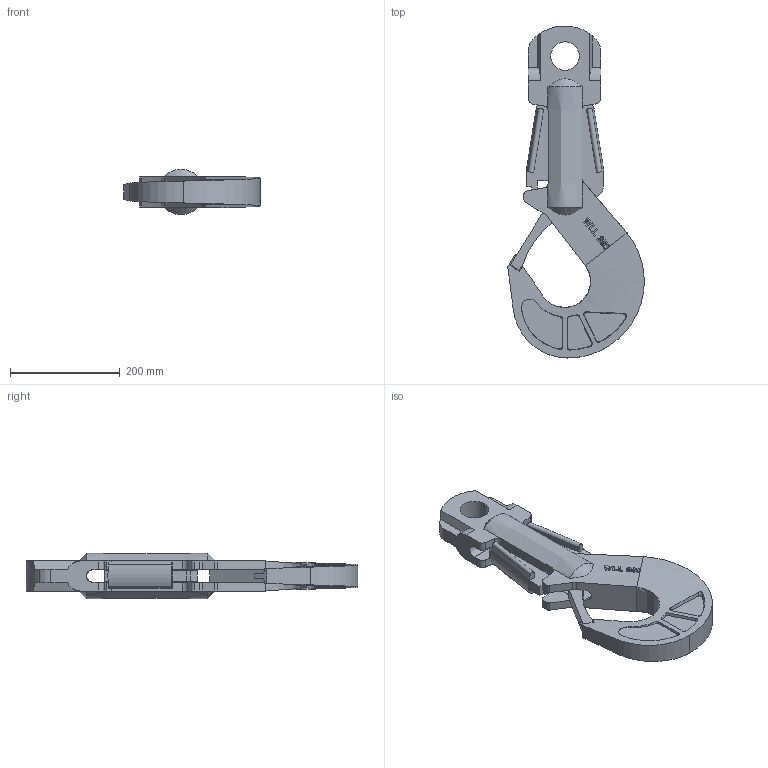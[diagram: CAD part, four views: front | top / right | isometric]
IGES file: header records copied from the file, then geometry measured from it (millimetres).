
Start section:  PTC IGES file: 001-m36095-p8.igs
Global section: file name: 001-m36095-p8.igs; native system: Pro/ENGINEER by Parametric Technology Corporation; preprocessor: 2011490; author: jonas.geis; organization: Unknown; date: 20191112.134614; units: millimetre
Bounding box: 248.98 x 604.99 x 83 mm (x, y, z)
Volume: 3384949.7 mm3; surface area: 336627.4 mm2
Topology: 3 solids, 3 shells, 445 faces, 1242 edges, 822 vertices
Faces by surface type: bspline 264, extrusion 101, revolution 80
